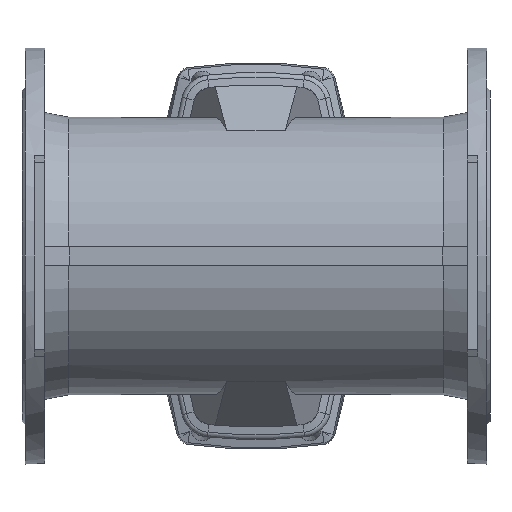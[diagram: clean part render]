
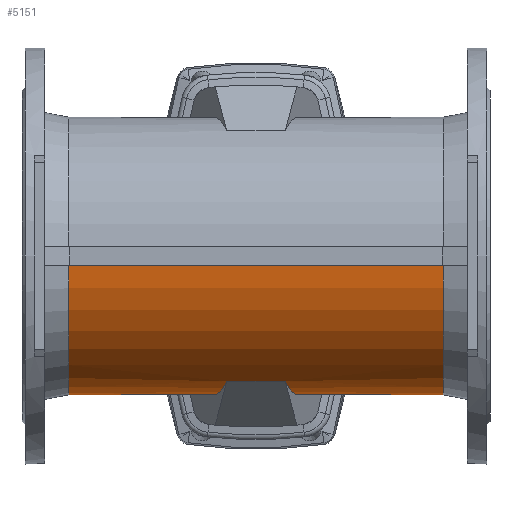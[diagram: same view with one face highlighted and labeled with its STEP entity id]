
A CAD part, front view. The second image highlights one B-rep face of the part: STEP entity #5151.
In plain terms, the highlighted cylindrical face has radius 133.5 mm (diameter 267 mm), a partial arc.
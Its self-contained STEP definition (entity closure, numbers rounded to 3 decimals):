
#113 = VERTEX_POINT ( 'NONE', #6741 ) ;
#117 = VERTEX_POINT ( 'NONE', #6745 ) ;
#122 = VERTEX_POINT ( 'NONE', #6750 ) ;
#424 = CARTESIAN_POINT ( 'NONE',  ( 28.117, -57.481, -120.491 ) ) ;
#428 = CARTESIAN_POINT ( 'NONE',  ( -179.85, 133.26, -8. ) ) ;
#796 =( BOUNDED_CURVE ( )  B_SPLINE_CURVE ( 3, ( #10391, #10398, #10399, #10400 ),
 .UNSPECIFIED., .F., .F. ) 
 B_SPLINE_CURVE_WITH_KNOTS ( ( 4, 4 ),
 ( 3.202, 5.158 ),
 .UNSPECIFIED. ) 
 CURVE ( )  GEOMETRIC_REPRESENTATION_ITEM ( )  RATIONAL_B_SPLINE_CURVE ( ( 1., 0.706, 0.706, 1. ) ) 
 REPRESENTATION_ITEM ( '' )  );
#797 =( BOUNDED_CURVE ( )  B_SPLINE_CURVE ( 3, ( #10373, #10369, #10378, #10379 ),
 .UNSPECIFIED., .F., .F. ) 
 B_SPLINE_CURVE_WITH_KNOTS ( ( 4, 4 ),
 ( 3.202, 5.158 ),
 .UNSPECIFIED. ) 
 CURVE ( )  GEOMETRIC_REPRESENTATION_ITEM ( )  RATIONAL_B_SPLINE_CURVE ( ( 1., 0.706, 0.706, 1. ) ) 
 REPRESENTATION_ITEM ( '' )  );
#3003 = EDGE_CURVE ( 'NONE', #7166, #7170, #9584, .T. ) ;
#3013 = EDGE_CURVE ( 'NONE', #122, #117, #9599, .T. ) ;
#3027 = EDGE_CURVE ( 'NONE', #7170, #122, #9613, .T. ) ;
#4553 = DIRECTION ( 'NONE',  ( 0., 0., 1. ) ) ;
#4554 = DIRECTION ( 'NONE',  ( -1., 0., 0. ) ) ;
#4556 = CARTESIAN_POINT ( 'NONE',  ( 115., 0., 0. ) ) ;
#4860 = CARTESIAN_POINT ( 'NONE',  ( -70.404, 133.26, -8. ) ) ;
#4876 = CARTESIAN_POINT ( 'NONE',  ( 70.404, 133.26, -8. ) ) ;
#4880 = CARTESIAN_POINT ( 'NONE',  ( 179.85, 133.26, -8. ) ) ;
#5151 = ADVANCED_FACE ( 'NONE', ( #9696 ), #9702, .T. ) ;
#5888 = EDGE_LOOP ( 'NONE', ( #9768, #9769, #9770, #9771, #9772, #9773, #9774, #9775 ) ) ;
#6378 = LINE ( 'NONE', #10329, #6385 ) ;
#6385 = VECTOR ( 'NONE', #10320, 1000. ) ;
#6391 = LINE ( 'NONE', #10342, #6396 ) ;
#6396 = VECTOR ( 'NONE', #10343, 1000. ) ;
#6400 = CIRCLE ( 'NONE', #8928, 133.5 ) ;
#6741 = CARTESIAN_POINT ( 'NONE',  ( -28.117, -57.481, -120.491 ) ) ;
#6745 = CARTESIAN_POINT ( 'NONE',  ( -179.85, -133.196, -9. ) ) ;
#6750 = CARTESIAN_POINT ( 'NONE',  ( 179.85, -133.196, -9. ) ) ;
#6939 = CARTESIAN_POINT ( 'NONE',  ( 179.85, 0., 0. ) ) ;
#6940 = DIRECTION ( 'NONE',  ( -1., 0., 0. ) ) ;
#6941 = DIRECTION ( 'NONE',  ( 0., 0., 1. ) ) ;
#7112 = VERTEX_POINT ( 'NONE', #424 ) ;
#7116 = VERTEX_POINT ( 'NONE', #428 ) ;
#7150 = VERTEX_POINT ( 'NONE', #4860 ) ;
#7166 = VERTEX_POINT ( 'NONE', #4876 ) ;
#7170 = VERTEX_POINT ( 'NONE', #4880 ) ;
#7778 = CARTESIAN_POINT ( 'NONE',  ( 115., 133.26, -8. ) ) ;
#7789 = DIRECTION ( 'NONE',  ( 1., 0., 0. ) ) ;
#7806 = CARTESIAN_POINT ( 'NONE',  ( 115., -133.196, -9. ) ) ;
#7817 = DIRECTION ( 'NONE',  ( -1., 0., 0. ) ) ;
#7848 = AXIS2_PLACEMENT_3D ( 'NONE', #6939, #6940, #6941 ) ;
#7892 = AXIS2_PLACEMENT_3D ( 'NONE', #4556, #4554, #4553 ) ;
#8928 = AXIS2_PLACEMENT_3D ( 'NONE', #10361, #10362, #10363 ) ;
#9584 = LINE ( 'NONE', #7778, #9588 ) ;
#9588 = VECTOR ( 'NONE', #7789, 1000. ) ;
#9599 = LINE ( 'NONE', #7806, #9601 ) ;
#9601 = VECTOR ( 'NONE', #7817, 1000. ) ;
#9613 = CIRCLE ( 'NONE', #7848, 133.5 ) ;
#9696 = FACE_OUTER_BOUND ( 'NONE', #5888, .T. ) ;
#9702 = CYLINDRICAL_SURFACE ( 'NONE', #7892, 133.5 ) ;
#9768 = ORIENTED_EDGE ( 'NONE', *, *, #10028, .F. ) ;
#9769 = ORIENTED_EDGE ( 'NONE', *, *, #3003, .T. ) ;
#9770 = ORIENTED_EDGE ( 'NONE', *, *, #3027, .T. ) ;
#9771 = ORIENTED_EDGE ( 'NONE', *, *, #3013, .T. ) ;
#9772 = ORIENTED_EDGE ( 'NONE', *, *, #10021, .F. ) ;
#9773 = ORIENTED_EDGE ( 'NONE', *, *, #10017, .F. ) ;
#9774 = ORIENTED_EDGE ( 'NONE', *, *, #10035, .T. ) ;
#9775 = ORIENTED_EDGE ( 'NONE', *, *, #10011, .F. ) ;
#10011 = EDGE_CURVE ( 'NONE', #7112, #113, #6378, .T. ) ;
#10017 = EDGE_CURVE ( 'NONE', #7150, #7116, #6391, .T. ) ;
#10021 = EDGE_CURVE ( 'NONE', #7116, #117, #6400, .T. ) ;
#10028 = EDGE_CURVE ( 'NONE', #7166, #7112, #797, .T. ) ;
#10035 = EDGE_CURVE ( 'NONE', #7150, #113, #796, .T. ) ;
#10320 = DIRECTION ( 'NONE',  ( -1., 0., 0. ) ) ;
#10329 = CARTESIAN_POINT ( 'NONE',  ( 0., -57.481, -120.491 ) ) ;
#10342 = CARTESIAN_POINT ( 'NONE',  ( -115., 133.26, -8. ) ) ;
#10343 = DIRECTION ( 'NONE',  ( -1., 0., 0. ) ) ;
#10361 = CARTESIAN_POINT ( 'NONE',  ( -179.85, 0., 0. ) ) ;
#10362 = DIRECTION ( 'NONE',  ( -1., 0., 0. ) ) ;
#10363 = DIRECTION ( 'NONE',  ( 0., 0., 1. ) ) ;
#10369 = CARTESIAN_POINT ( 'NONE',  ( 69.014, 126.993, -112.394 ) ) ;
#10373 = CARTESIAN_POINT ( 'NONE',  ( 70.404, 133.26, -8. ) ) ;
#10378 = CARTESIAN_POINT ( 'NONE',  ( 49.043, 36.91, -165.522 ) ) ;
#10379 = CARTESIAN_POINT ( 'NONE',  ( 28.117, -57.481, -120.491 ) ) ;
#10391 = CARTESIAN_POINT ( 'NONE',  ( -70.404, 133.26, -8. ) ) ;
#10398 = CARTESIAN_POINT ( 'NONE',  ( -69.014, 126.993, -112.394 ) ) ;
#10399 = CARTESIAN_POINT ( 'NONE',  ( -49.043, 36.91, -165.522 ) ) ;
#10400 = CARTESIAN_POINT ( 'NONE',  ( -28.117, -57.481, -120.491 ) ) ;
